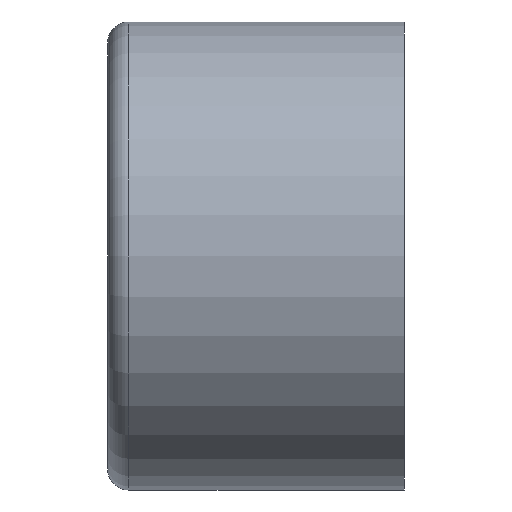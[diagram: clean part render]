
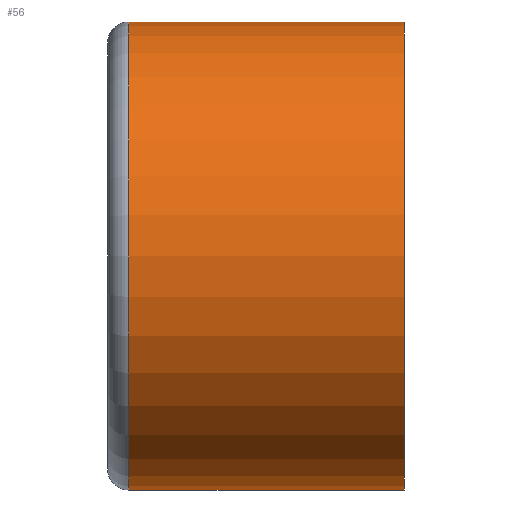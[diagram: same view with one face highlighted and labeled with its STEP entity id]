
A CAD part, left-side view. The second image highlights one B-rep face of the part: STEP entity #56.
In plain terms, the highlighted cylindrical face has radius 55.2 mm (diameter 110.4 mm), a partial arc.
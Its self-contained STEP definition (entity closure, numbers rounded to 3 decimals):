
#47 = EDGE_CURVE ( 'NONE', #89, #69, #192, .T. ) ;
#49 = EDGE_CURVE ( 'NONE', #87, #92, #199, .T. ) ;
#50 = EDGE_CURVE ( 'NONE', #89, #87, #128, .T. ) ;
#51 = EDGE_CURVE ( 'NONE', #92, #69, #142, .T. ) ;
#56 = ADVANCED_FACE ( 'NONE', ( #223 ), #218, .T. ) ;
#69 = VERTEX_POINT ( 'NONE', #271 ) ;
#74 = EDGE_LOOP ( 'NONE', ( #99, #81, #162, #166 ) ) ;
#81 = ORIENTED_EDGE ( 'NONE', *, *, #50, .T. ) ;
#87 = VERTEX_POINT ( 'NONE', #265 ) ;
#89 = VERTEX_POINT ( 'NONE', #269 ) ;
#92 = VERTEX_POINT ( 'NONE', #276 ) ;
#99 = ORIENTED_EDGE ( 'NONE', *, *, #47, .F. ) ;
#105 = AXIS2_PLACEMENT_3D ( 'NONE', #227, #219, #228 ) ;
#128 = CIRCLE ( 'NONE', #146, 55.2 ) ;
#130 = AXIS2_PLACEMENT_3D ( 'NONE', #208, #209, #210 ) ;
#142 = CIRCLE ( 'NONE', #130, 55.2 ) ;
#146 = AXIS2_PLACEMENT_3D ( 'NONE', #205, #206, #207 ) ;
#149 = VECTOR ( 'NONE', #204, 1000. ) ;
#152 = VECTOR ( 'NONE', #200, 1000. ) ;
#162 = ORIENTED_EDGE ( 'NONE', *, *, #49, .T. ) ;
#166 = ORIENTED_EDGE ( 'NONE', *, *, #51, .T. ) ;
#192 = LINE ( 'NONE', #198, #152 ) ;
#196 = CARTESIAN_POINT ( 'NONE',  ( 0., 70., -55.2 ) ) ;
#198 = CARTESIAN_POINT ( 'NONE',  ( 0., 70., 55.2 ) ) ;
#199 = LINE ( 'NONE', #196, #149 ) ;
#200 = DIRECTION ( 'NONE',  ( 0., -1., 0. ) ) ;
#204 = DIRECTION ( 'NONE',  ( 0., -1., 0. ) ) ;
#205 = CARTESIAN_POINT ( 'NONE',  ( 0., 65., 0. ) ) ;
#206 = DIRECTION ( 'NONE',  ( 0., -1., 0. ) ) ;
#207 = DIRECTION ( 'NONE',  ( 0., 0., 1. ) ) ;
#208 = CARTESIAN_POINT ( 'NONE',  ( 0., 0., 0. ) ) ;
#209 = DIRECTION ( 'NONE',  ( 0., 1., 0. ) ) ;
#210 = DIRECTION ( 'NONE',  ( 0., 0., 1. ) ) ;
#218 = CYLINDRICAL_SURFACE ( 'NONE', #105, 55.2 ) ;
#219 = DIRECTION ( 'NONE',  ( 0., -1., 0. ) ) ;
#223 = FACE_OUTER_BOUND ( 'NONE', #74, .T. ) ;
#227 = CARTESIAN_POINT ( 'NONE',  ( 0., 70., 0. ) ) ;
#228 = DIRECTION ( 'NONE',  ( 0., 0., -1. ) ) ;
#265 = CARTESIAN_POINT ( 'NONE',  ( 0., 65., -55.2 ) ) ;
#269 = CARTESIAN_POINT ( 'NONE',  ( 0., 65., 55.2 ) ) ;
#271 = CARTESIAN_POINT ( 'NONE',  ( 0., 0., 55.2 ) ) ;
#276 = CARTESIAN_POINT ( 'NONE',  ( 0., 0., -55.2 ) ) ;
